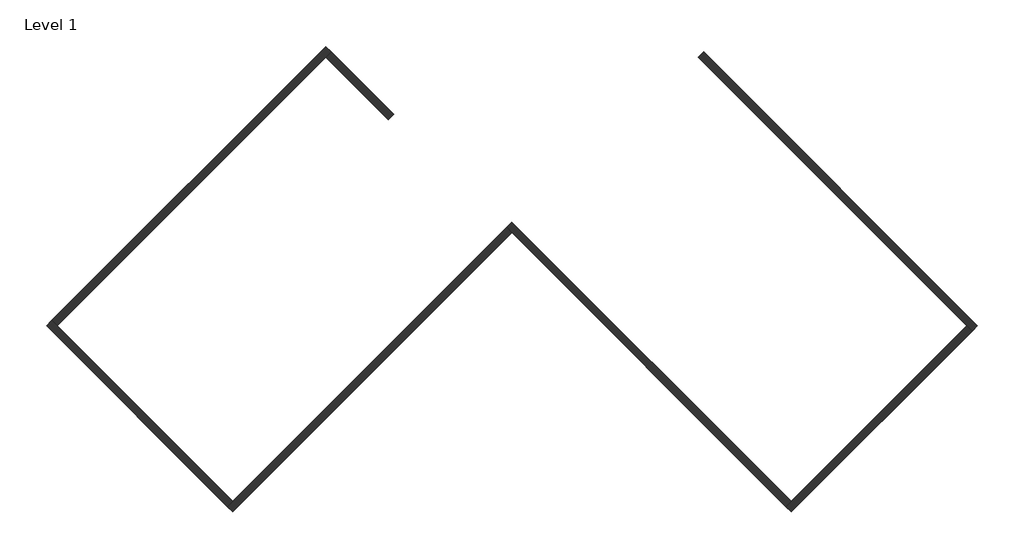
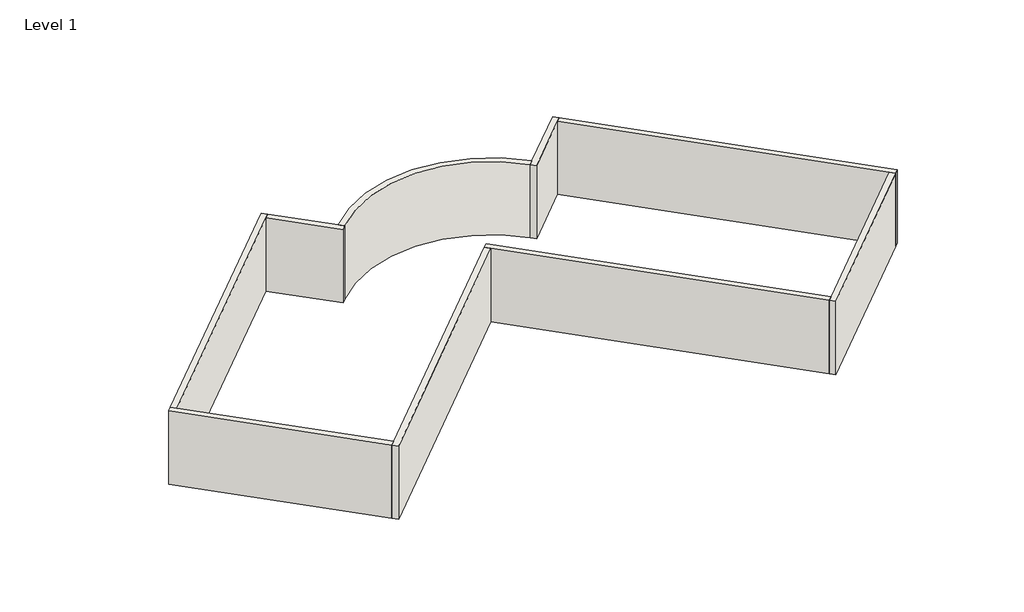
# One storey: 9 walls.
"""IFC4 building model written with IfcOpenShell, lengths in millimetres."""

from ifc_helpers import new_model, si_unit, point, frame, frame_2d, origin, origin_with_axes, place, context, project, spatial, polyline, circle_curve, trimmed, segment, composite_curve, outline, extrude, faceted_brep, element, save
from ifc_brep_helpers import plane_surface, revolved_surface, advanced_brep

model = new_model("IFC4")

# Units and contexts
model_context = context("Model", 3, world=origin())
ifc_project = project(units=[si_unit("LENGTHUNIT", "METRE", prefix="MILLI")], contexts=[model_context])

# Site, building, storey
site = spatial("IfcSite", under=ifc_project)
building = spatial("IfcBuilding", under=site)
storey = spatial("IfcBuildingStorey", under=building, Name="Level 1", Elevation=0.0)

# Walls
placement = place(None, origin())
element("IfcWall", 1, ObjectType="Exterior - Brick on Mtl. Stud", at=placement, inside=storey, context=model_context, shape_type="AdvancedBrep", body=[
    advanced_brep(
    [(-19005.025248, 7088.73177, 0.0), (-16105.9530225, 9987.8039956, 0.0), (-15858.4656491, 10235.291369, 0.0), (-15858.4656491, 10235.291369, 4572.0), (-16105.9530225, 9987.8039956, 4572.0), (-19005.025248, 7088.73177, 4572.0), (-19246.9213445, 7341.8104204, 0.0), (-19246.9213445, 7341.8104204, 4572.0), (-18999.4339711, 7589.2977938, 4572.0), (-16105.9530225, 10482.7787424, 4572.0), (-16105.9530225, 10482.7787424, 0.0), (-18999.4339711, 7589.2977938, 0.0)],
    [
        (0, 1),
        (1, 2),
        (2, 3),
        (3, 4),
        (4, 5),
        (5, 0),
        (6, 7),
        (7, 8),
        (8, 9),
        (9, 10),
        (10, 11),
        (11, 6),
        (0, 6, circle_curve(frame((-24726.9988987, 1861.7328662, 0.0), z_axis=(0.0, 0.0, 1.0), x_axis=(1.0, 0.0, 0.0)), 7750.0)),
        (10, 2),
        (3, 9),
        (7, 5, circle_curve(frame((-24726.9988987, 1861.7328662, 4572.0), z_axis=(0.0, 0.0, -1.0), x_axis=(1.0, 0.0, 0.0)), 7750.0)),
    ],
    [
        plane_surface(frame((-18875.6902844, 7218.0667337, 0.0), z_axis=(0.707106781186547, -0.707106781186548, 0.0), x_axis=(0.707106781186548, 0.707106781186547, 0.0))),
        plane_surface(frame((-19123.1776578, 7465.5541071, 0.0), z_axis=(-0.707106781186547, 0.707106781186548, 0.0), x_axis=(-0.707106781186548, -0.707106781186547, 0.0))),
        plane_surface(frame((-18877.0567062, 7216.7003119, 0.0), z_axis=(0.0, 0.0, -1.0000000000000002), x_axis=(-0.7071067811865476, 0.7071067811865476, 0.0))),
        plane_surface(frame((-15982.2093358, 10111.5476823, 4572.0), z_axis=(0.0, 0.0, 1.0000000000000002), x_axis=(-0.7071067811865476, 0.7071067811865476, 0.0))),
        plane_surface(frame((-16105.9530225, 10482.7787424, 0.0), z_axis=(0.7071067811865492, 0.7071067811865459, 0.0), x_axis=(-0.7071067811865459, 0.7071067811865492, 0.0))),
        revolved_surface(polyline([(-16976.9988987, 1861.7328662, 0.0), (-16976.9988987, 1861.7328662, 4572.0)]), (-24726.9988987, 1861.7328662, 0.0), (0.0, 0.0, -1.0)),
    ],
    [
        (0, [[1, 2, 3, 4, 5, 6]]),
        (1, [[7, 8, 9, 10, 11, 12]]),
        (2, [[-2, -1, 13, -12, -11, 14]]),
        (3, [[-5, -4, 15, -9, -8, 16]]),
        (4, [[-3, -14, -10, -15]]),
        (5, [[-6, -16, -7, -13]]),
    ],
),
])
element("IfcWall", 2, ObjectType="Exterior - Brick on Mtl. Stud", at=placement, inside=storey, context=model_context, shape_type="Brep", body=[
    faceted_brep([(-16105.9530225, 9987.8039956, 0.0), (-3669.358955, -2448.7900719, 0.0), (-3421.8715816, -2696.2774453, 0.0), (-3421.8715816, -2696.2774453, 4572.0), (-3669.358955, -2448.7900719, 4572.0), (-16105.9530225, 9987.8039956, 4572.0), (-15858.4656491, 10235.291369, 0.0), (-15858.4656491, 10235.291369, 4572.0), (-3174.3842082, -2448.7900719, 4572.0), (-3174.3842082, -2448.7900719, 0.0)], [[[0, 1, 2, 3, 4, 5]], [[6, 7, 8, 9]], [[2, 1, 0, 6, 9]], [[5, 4, 3, 8, 7]], [[0, 5, 7, 6]], [[3, 2, 9, 8]]]),
])
element("IfcWall", 3, ObjectType="Exterior - Brick on Mtl. Stud", at=placement, inside=storey, context=model_context, shape_type="Brep", body=[
    faceted_brep([(-3669.358955, -2448.7900719, 0.0), (-11795.4300844, -10574.8612013, 0.0), (-12042.9174578, -10822.3485747, 0.0), (-12042.9174578, -10822.3485747, 4572.0), (-11795.4300844, -10574.8612013, 4572.0), (-3669.358955, -2448.7900719, 4572.0), (-3421.8715816, -2696.2774453, 0.0), (-3421.8715816, -2696.2774453, 4572.0), (-11795.4300844, -11069.8359482, 4572.0), (-11795.4300844, -11069.8359482, 0.0)], [[[0, 1, 2, 3, 4, 5]], [[6, 7, 8, 9]], [[2, 1, 0, 6, 9]], [[5, 4, 3, 8, 7]], [[0, 5, 7, 6]], [[3, 2, 9, 8]]]),
])
element("IfcWall", 4, ObjectType="Exterior - Brick on Mtl. Stud", at=placement, inside=storey, context=model_context, shape_type="Brep", body=[
    faceted_brep([(-11795.4300844, -10574.8612013, 0.0), (-24726.9988987, 2356.707613, 0.0), (-24726.9988987, 2356.707613, 4572.0), (-11795.4300844, -10574.8612013, 4572.0), (-12042.9174578, -10822.3485747, 0.0), (-12042.9174578, -10822.3485747, 4572.0), (-24726.9988987, 1861.7328662, 4572.0), (-24974.4862721, 2109.2202396, 4572.0), (-24974.4862721, 2109.2202396, 0.0), (-24726.9988987, 1861.7328662, 0.0)], [[[0, 1, 2, 3]], [[4, 5, 6, 7, 8, 9]], [[1, 0, 4, 9, 8]], [[3, 2, 7, 6, 5]], [[0, 3, 5, 4]], [[2, 1, 8, 7]]]),
])
element("IfcWall", 5, ObjectType="Exterior - Brick on Mtl. Stud", at=placement, inside=storey, context=model_context, shape_type="Brep", body=[
    faceted_brep([(-24974.4862721, 2109.2202396, 0.0), (-37658.5677131, -10574.8612013, 0.0), (-37906.0550865, -10822.3485747, 0.0), (-37906.0550865, -10822.3485747, 4572.0), (-37658.5677131, -10574.8612013, 4572.0), (-24974.4862721, 2109.2202396, 4572.0), (-24726.9988987, 1861.7328662, 0.0), (-24726.9988987, 1861.7328662, 4572.0), (-37658.5677131, -11069.8359482, 4572.0), (-37658.5677131, -11069.8359482, 0.0)], [[[0, 1, 2, 3, 4, 5]], [[6, 7, 8, 9]], [[2, 1, 0, 6, 9]], [[5, 4, 3, 8, 7]], [[0, 5, 7, 6]], [[3, 2, 9, 8]]]),
])
element("IfcWall", 6, ObjectType="Exterior - Brick on Mtl. Stud", at=placement, inside=storey, context=model_context, shape_type="Brep", body=[
    faceted_brep([(-37658.5677131, -10574.8612013, 0.0), (-45784.6388425, -2448.7900719, 0.0), (-46032.1262159, -2201.3026985, 0.0), (-46032.1262159, -2201.3026985, 4572.0), (-45784.6388425, -2448.7900719, 4572.0), (-37658.5677131, -10574.8612013, 4572.0), (-37906.0550865, -10822.3485747, 0.0), (-37906.0550865, -10822.3485747, 4572.0), (-46279.6135893, -2448.7900719, 4572.0), (-46279.6135893, -2448.7900719, 0.0)], [[[0, 1, 2, 3, 4, 5]], [[6, 7, 8, 9]], [[2, 1, 0, 6, 9]], [[5, 4, 3, 8, 7]], [[0, 5, 7, 6]], [[3, 2, 9, 8]]]),
])
element("IfcWall", 7, ObjectType="Exterior - Brick on Mtl. Stud", at=placement, inside=storey, context=model_context, shape_type="Brep", body=[
    faceted_brep([(-45784.6388425, -2448.7900719, 0.0), (-33348.044775, 9987.8039956, 0.0), (-33100.5574015, 10235.291369, 0.0), (-33100.5574015, 10235.291369, 4572.0), (-33348.044775, 9987.8039956, 4572.0), (-45784.6388425, -2448.7900719, 4572.0), (-46032.1262159, -2201.3026985, 0.0), (-46032.1262159, -2201.3026985, 4572.0), (-33348.044775, 10482.7787424, 4572.0), (-33348.044775, 10482.7787424, 0.0)], [[[0, 1, 2, 3, 4, 5]], [[6, 7, 8, 9]], [[2, 1, 0, 6, 9]], [[5, 4, 3, 8, 7]], [[0, 5, 7, 6]], [[3, 2, 9, 8]]]),
])
element("IfcWall", 8, ObjectType="Exterior - Brick on Mtl. Stud", at=placement, inside=storey, context=model_context, shape_type="AdvancedBrep", body=[
    advanced_brep(
    [(-33348.044775, 9987.8039956, 0.0), (-30448.9725494, 7088.73177, 0.0), (-30448.9725494, 7088.73177, 4572.0), (-33348.044775, 9987.8039956, 4572.0), (-33100.5574015, 10235.291369, 0.0), (-33100.5574015, 10235.291369, 4572.0), (-30454.5638263, 7589.2977938, 4572.0), (-30207.0764529, 7341.8104204, 4572.0), (-30207.0764529, 7341.8104204, 0.0), (-30454.5638263, 7589.2977938, 0.0)],
    [
        (0, 1),
        (1, 2),
        (2, 3),
        (3, 0),
        (4, 5),
        (5, 6),
        (6, 7),
        (7, 8),
        (8, 9),
        (9, 4),
        (0, 4),
        (8, 1, circle_curve(frame((-24726.9988987, 1861.7328662, 0.0), z_axis=(0.0, 0.0, 1.0), x_axis=(1.0, 0.0, 0.0)), 7750.0)),
        (2, 7, circle_curve(frame((-24726.9988987, 1861.7328662, 4572.0), z_axis=(0.0, 0.0, -1.0), x_axis=(1.0, 0.0, 0.0)), 7750.0)),
        (5, 3),
    ],
    [
        plane_surface(frame((-33595.5321484, 10235.291369, 0.0), z_axis=(-0.7071067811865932, -0.7071067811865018, 0.0), x_axis=(0.7071067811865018, -0.7071067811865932, 0.0))),
        plane_surface(frame((-33348.044775, 10482.7787424, 0.0), z_axis=(0.7071067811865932, 0.7071067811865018, 0.0), x_axis=(-0.7071067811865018, 0.7071067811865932, 0.0))),
        plane_surface(frame((-33471.7884617, 10111.5476823, 0.0), z_axis=(0.0, 0.0, -1.0000000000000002), x_axis=(0.707106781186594, 0.7071067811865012, 0.0))),
        plane_surface(frame((-30576.9410912, 7216.7003119, 4572.0), z_axis=(0.0, 0.0, 1.0000000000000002), x_axis=(0.707106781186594, 0.7071067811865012, 0.0))),
        plane_surface(frame((-46032.1262159, -2696.2774453, 0.0), z_axis=(-0.7071067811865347, 0.7071067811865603, 0.0), x_axis=(0.7071067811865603, 0.7071067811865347, 0.0))),
        revolved_surface(polyline([(-16976.9988987, 1861.7328662, 0.0), (-16976.9988987, 1861.7328662, 4572.0)]), (-24726.9988987, 1861.7328662, 0.0), (0.0, 0.0, -1.0)),
    ],
    [
        (0, [[1, 2, 3, 4]]),
        (1, [[5, 6, 7, 8, 9, 10]]),
        (2, [[-1, 11, -10, -9, 12]]),
        (3, [[-3, 13, -7, -6, 14]]),
        (4, [[-4, -14, -5, -11]]),
        (5, [[-2, -12, -8, -13]]),
    ],
),
])
element("IfcWall", 9, ObjectType="Exterior - Brick on Mtl. Stud", at=placement, inside=storey, context=model_context, shape_type="SweptSolid", body=[
    extrude(outline(composite_curve([segment(polyline([(-18999.4339711, 7589.2977938), (-19246.9213445, 7341.8104204)]), True, "CONTINUOUS"), segment(trimmed(circle_curve(frame_2d((-24726.9988987, 1861.7328662)), 7750.0), [point((-19246.9213445, 7341.8104204))], [point((-30207.0764529, 7341.8104204))], True, "CARTESIAN"), True, "CONTINUOUS"), segment(polyline([(-30207.0764529, 7341.8104204), (-30454.5638263, 7589.2977938)]), True, "CONTINUOUS"), segment(trimmed(circle_curve(frame_2d((-24726.9988987, 1861.7328662)), 8100.0), [point((-30454.5638263, 7589.2977938))], [point((-18999.4339711, 7589.2977938))], False, "CARTESIAN"), True, "CONTINUOUS")], self_intersect=False)), origin_with_axes(), (0.0, 0.0, 1.0), 4572.0),
])

save(model, "model.ifc")
